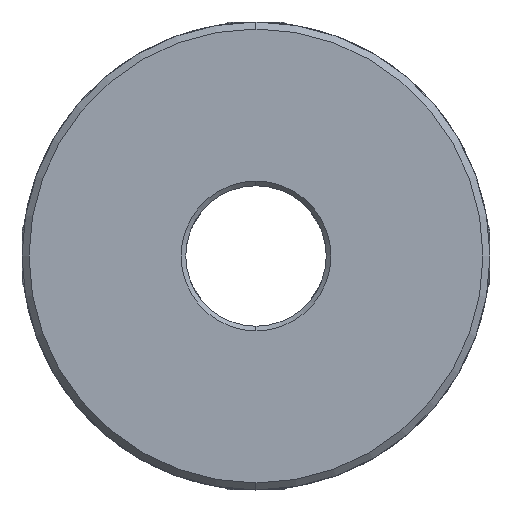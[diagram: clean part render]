
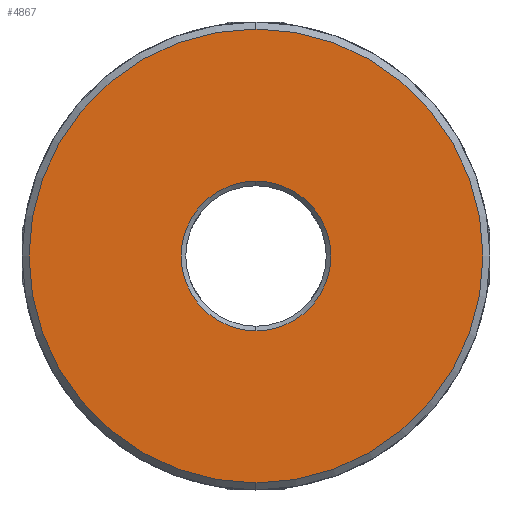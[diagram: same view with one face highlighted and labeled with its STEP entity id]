
A CAD part, front view. The second image highlights one B-rep face of the part: STEP entity #4867.
In plain terms, the highlighted planar face has unit normal (0, -1, 0).
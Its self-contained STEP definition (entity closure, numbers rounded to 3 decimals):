
#94 = FACE_BOUND ( 'NONE', #6193, .T. ) ;
#247 = CARTESIAN_POINT ( 'NONE',  ( 0., 0., -19.4 ) ) ;
#403 = CARTESIAN_POINT ( 'NONE',  ( 0., 0., 0. ) ) ;
#446 = ORIENTED_EDGE ( 'NONE', *, *, #604, .T. ) ;
#604 = EDGE_CURVE ( 'NONE', #2630, #7109, #4172, .T. ) ;
#872 = CARTESIAN_POINT ( 'NONE',  ( 0., 0., 0. ) ) ;
#1034 = VERTEX_POINT ( 'NONE', #5542 ) ;
#1571 = CARTESIAN_POINT ( 'NONE',  ( 0., 0., 0. ) ) ;
#1623 = ORIENTED_EDGE ( 'NONE', *, *, #2861, .T. ) ;
#1648 = CIRCLE ( 'NONE', #3898, 6.4 ) ;
#1663 = VERTEX_POINT ( 'NONE', #247 ) ;
#1724 = EDGE_CURVE ( 'NONE', #7109, #2630, #1648, .T. ) ;
#1733 = DIRECTION ( 'NONE',  ( 0., 0., 1. ) ) ;
#2630 = VERTEX_POINT ( 'NONE', #3066 ) ;
#2861 = EDGE_CURVE ( 'NONE', #1663, #1034, #4556, .T. ) ;
#2920 = DIRECTION ( 'NONE',  ( 0., 1., 0. ) ) ;
#2977 = EDGE_LOOP ( 'NONE', ( #5247, #1623 ) ) ;
#3066 = CARTESIAN_POINT ( 'NONE',  ( 0., 0., 6.4 ) ) ;
#3444 = CARTESIAN_POINT ( 'NONE',  ( 0., 0., -6.4 ) ) ;
#3693 = FACE_OUTER_BOUND ( 'NONE', #2977, .T. ) ;
#3858 = DIRECTION ( 'NONE',  ( 0., 1., 0. ) ) ;
#3898 = AXIS2_PLACEMENT_3D ( 'NONE', #403, #5835, #4638 ) ;
#4057 = AXIS2_PLACEMENT_3D ( 'NONE', #7143, #2920, #1733 ) ;
#4082 = ORIENTED_EDGE ( 'NONE', *, *, #1724, .T. ) ;
#4172 = CIRCLE ( 'NONE', #7588, 6.4 ) ;
#4233 = PLANE ( 'NONE',  #4057 ) ;
#4556 = CIRCLE ( 'NONE', #6459, 19.4 ) ;
#4585 = DIRECTION ( 'NONE',  ( 0., 0., 1. ) ) ;
#4638 = DIRECTION ( 'NONE',  ( 0., 0., 1. ) ) ;
#4867 = ADVANCED_FACE ( 'NONE', ( #94, #3693 ), #4233, .F. ) ;
#4987 = EDGE_CURVE ( 'NONE', #1034, #1663, #6314, .T. ) ;
#5158 = DIRECTION ( 'NONE',  ( 0., 0., 1. ) ) ;
#5247 = ORIENTED_EDGE ( 'NONE', *, *, #4987, .T. ) ;
#5542 = CARTESIAN_POINT ( 'NONE',  ( 0., 0., 19.4 ) ) ;
#5835 = DIRECTION ( 'NONE',  ( 0., 1., 0. ) ) ;
#5960 = AXIS2_PLACEMENT_3D ( 'NONE', #1571, #7543, #7573 ) ;
#6193 = EDGE_LOOP ( 'NONE', ( #4082, #446 ) ) ;
#6314 = CIRCLE ( 'NONE', #5960, 19.4 ) ;
#6459 = AXIS2_PLACEMENT_3D ( 'NONE', #7531, #6884, #5158 ) ;
#6884 = DIRECTION ( 'NONE',  ( 0., -1., 0. ) ) ;
#7109 = VERTEX_POINT ( 'NONE', #3444 ) ;
#7143 = CARTESIAN_POINT ( 'NONE',  ( 24.74, 0., -50. ) ) ;
#7531 = CARTESIAN_POINT ( 'NONE',  ( 0., 0., 0. ) ) ;
#7543 = DIRECTION ( 'NONE',  ( 0., -1., 0. ) ) ;
#7573 = DIRECTION ( 'NONE',  ( 0., 0., 1. ) ) ;
#7588 = AXIS2_PLACEMENT_3D ( 'NONE', #872, #3858, #4585 ) ;
